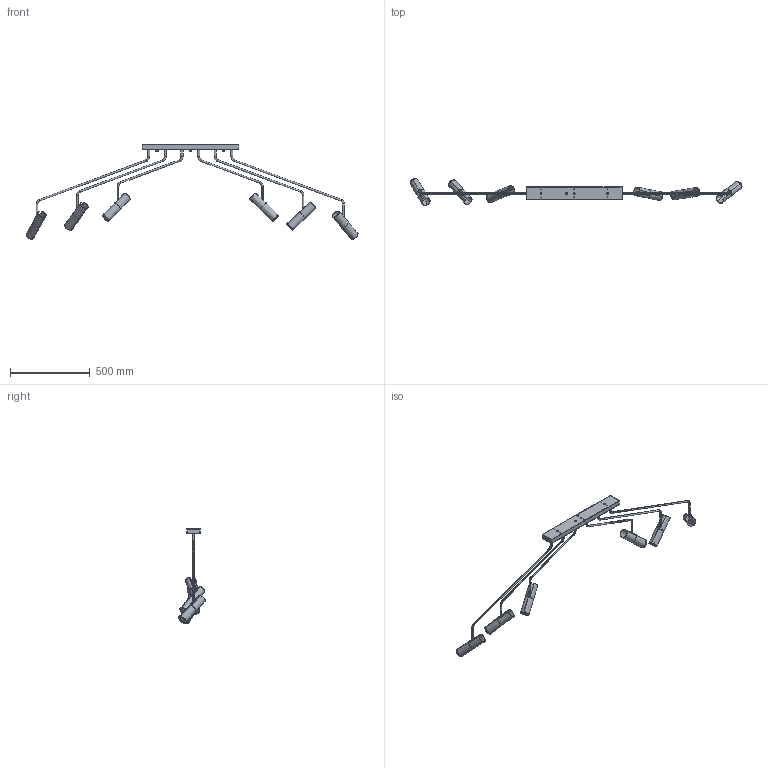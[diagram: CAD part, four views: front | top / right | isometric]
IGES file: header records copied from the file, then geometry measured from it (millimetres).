
Start section: SolidWorks IGES file using analytic representation for surfaces
Global section: file name: C:\Users\Asia\Desktop\Super Eye_6505,6492,6498.IGS; native system: SolidWorks 2016; preprocessor: SolidWorks 2016; author: Asia; date: 160803.114546; units: millimetre
Bounding box: 2078.13 x 168.25 x 591.25 mm (x, y, z)
Surface area: 1108037.8 mm2 (no closed solid volume)
Topology: 0 solids, 0 shells, 985 faces, 16942 edges, 16942 vertices
Faces by surface type: bspline 547, revolution 438
